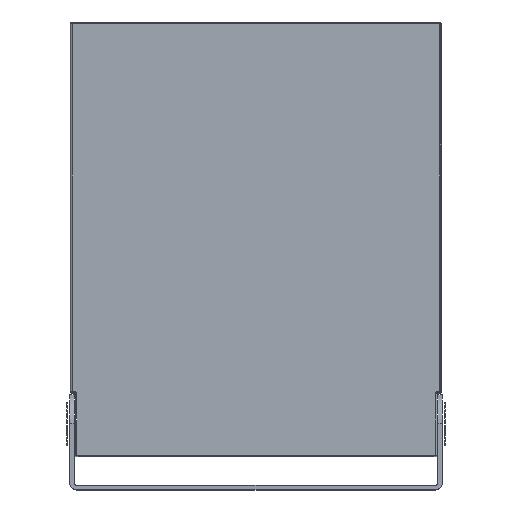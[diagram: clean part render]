
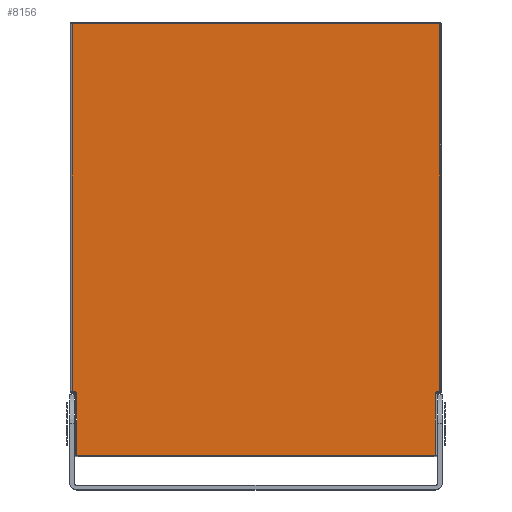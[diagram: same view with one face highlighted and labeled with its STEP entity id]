
A CAD part, top view. The second image highlights one B-rep face of the part: STEP entity #8156.
In plain terms, the highlighted planar face has unit normal (0, 0, 1).
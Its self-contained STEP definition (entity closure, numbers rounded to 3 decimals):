
#1=DIRECTION('',(0.,1.,0.));
#2=VECTOR('',#1,53.099);
#3=CARTESIAN_POINT('',(-154.5,-213.691,0.));
#4=LINE('',#3,#2);
#5=CARTESIAN_POINT('',(-156.5,-160.592,0.));
#6=DIRECTION('',(0.,0.,1.));
#7=DIRECTION('',(1.,0.,0.));
#8=AXIS2_PLACEMENT_3D('',#5,#6,#7);
#10=DIRECTION('',(-1.,0.026,0.));
#11=VECTOR('',#10,2.053);
#12=CARTESIAN_POINT('',(-156.448,-158.593,0.));
#13=LINE('',#12,#11);
#14=DIRECTION('',(0.,-1.,0.));
#15=VECTOR('',#14,317.039);
#16=CARTESIAN_POINT('',(-158.5,158.5,0.));
#17=LINE('',#16,#15);
#18=DIRECTION('',(1.,0.,0.));
#19=VECTOR('',#18,317.);
#20=CARTESIAN_POINT('',(-158.5,158.5,0.));
#21=LINE('',#20,#19);
#22=DIRECTION('',(0.,-1.,0.));
#23=VECTOR('',#22,317.039);
#24=CARTESIAN_POINT('',(158.5,158.5,0.));
#25=LINE('',#24,#23);
#26=DIRECTION('',(-1.,-0.026,0.));
#27=VECTOR('',#26,2.053);
#28=CARTESIAN_POINT('',(158.5,-158.539,0.));
#29=LINE('',#28,#27);
#30=CARTESIAN_POINT('',(156.5,-160.592,0.));
#31=DIRECTION('',(0.,0.,1.));
#32=DIRECTION('',(-0.026,1.,0.));
#33=AXIS2_PLACEMENT_3D('',#30,#31,#32);
#35=DIRECTION('',(0.,1.,0.));
#36=VECTOR('',#35,53.099);
#37=CARTESIAN_POINT('',(154.5,-213.691,0.));
#38=LINE('',#37,#36);
#39=DIRECTION('',(-1.,0.,0.));
#40=VECTOR('',#39,309.);
#41=CARTESIAN_POINT('',(154.5,-213.691,0.));
#42=LINE('',#41,#40);
#6435=CARTESIAN_POINT('',(-154.5,-213.691,0.));
#6461=CARTESIAN_POINT('',(154.5,-213.691,0.));
#7847=VERTEX_POINT('',#6435);
#7851=CARTESIAN_POINT('',(-154.5,-160.592,0.));
#7852=VERTEX_POINT('',#7851);
#7853=CARTESIAN_POINT('',(-156.448,-158.593,0.));
#7854=VERTEX_POINT('',#7853);
#7855=CARTESIAN_POINT('',(-158.5,-158.539,0.));
#7856=VERTEX_POINT('',#7855);
#7861=CARTESIAN_POINT('',(-158.5,158.5,0.));
#7862=VERTEX_POINT('',#7861);
#7867=CARTESIAN_POINT('',(158.5,158.5,0.));
#7868=VERTEX_POINT('',#7867);
#7871=CARTESIAN_POINT('',(158.5,-158.539,0.));
#7872=VERTEX_POINT('',#7871);
#7879=CARTESIAN_POINT('',(156.448,-158.593,0.));
#7880=VERTEX_POINT('',#7879);
#7881=CARTESIAN_POINT('',(154.5,-160.592,0.));
#7882=VERTEX_POINT('',#7881);
#7884=VERTEX_POINT('',#6461);
#8129=CARTESIAN_POINT('',(0.,0.,0.));
#8130=DIRECTION('',(0.,0.,1.));
#8131=DIRECTION('',(1.,0.,0.));
#8132=AXIS2_PLACEMENT_3D('',#8129,#8130,#8131);
#8133=PLANE('',#8132);
#8135=ORIENTED_EDGE('',*,*,#8134,.T.);
#8137=ORIENTED_EDGE('',*,*,#8136,.T.);
#8139=ORIENTED_EDGE('',*,*,#8138,.T.);
#8141=ORIENTED_EDGE('',*,*,#8140,.F.);
#8143=ORIENTED_EDGE('',*,*,#8142,.T.);
#8145=ORIENTED_EDGE('',*,*,#8144,.T.);
#8147=ORIENTED_EDGE('',*,*,#8146,.T.);
#8149=ORIENTED_EDGE('',*,*,#8148,.T.);
#8151=ORIENTED_EDGE('',*,*,#8150,.F.);
#8153=ORIENTED_EDGE('',*,*,#8152,.T.);
#8154=EDGE_LOOP('',(#8135,#8137,#8139,#8141,#8143,#8145,#8147,#8149,#8151,
#8153));
#8155=FACE_OUTER_BOUND('',#8154,.F.);
#8156=ADVANCED_FACE('',(#8155),#8133,.T.);
#9=CIRCLE('',#8,2.);
#34=CIRCLE('',#33,2.);
#8134=EDGE_CURVE('',#7847,#7852,#4,.T.);
#8136=EDGE_CURVE('',#7852,#7854,#9,.T.);
#8138=EDGE_CURVE('',#7854,#7856,#13,.T.);
#8140=EDGE_CURVE('',#7862,#7856,#17,.T.);
#8142=EDGE_CURVE('',#7862,#7868,#21,.T.);
#8144=EDGE_CURVE('',#7868,#7872,#25,.T.);
#8146=EDGE_CURVE('',#7872,#7880,#29,.T.);
#8148=EDGE_CURVE('',#7880,#7882,#34,.T.);
#8150=EDGE_CURVE('',#7884,#7882,#38,.T.);
#8152=EDGE_CURVE('',#7884,#7847,#42,.T.);
